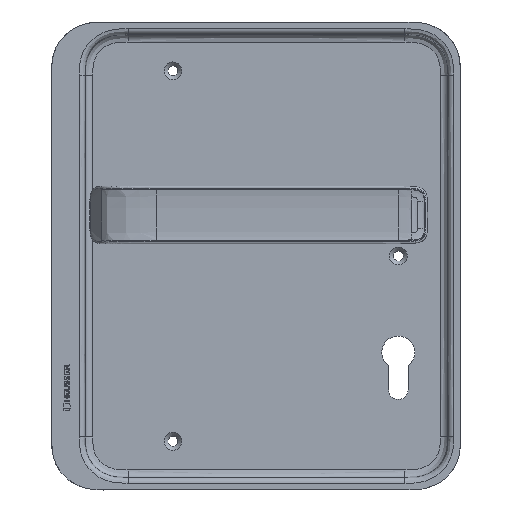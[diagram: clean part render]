
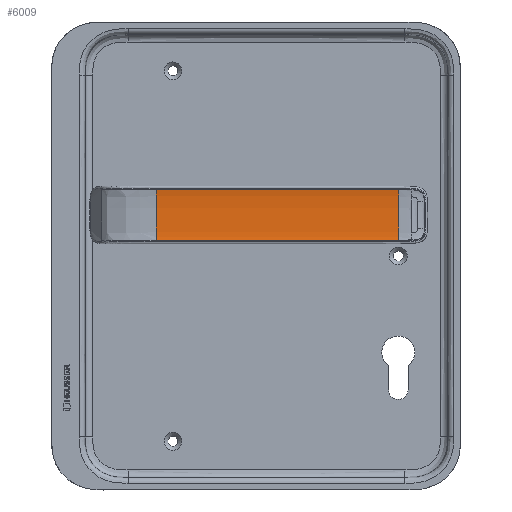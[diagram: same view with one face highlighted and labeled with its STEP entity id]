
A CAD part, top view. The second image highlights one B-rep face of the part: STEP entity #6009.
In plain terms, the highlighted free-form (B-spline) face has degree [1, 5] with [2, 6] control points.
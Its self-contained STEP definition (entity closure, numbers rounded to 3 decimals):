
#267=B_SPLINE_CURVE_WITH_KNOTS('',5,(#14094,#14095,#14096,#14097,#14098,
#14099),.UNSPECIFIED.,.F.,.F.,(6,6),(0.014,0.986),
 .UNSPECIFIED.);
#278=B_SPLINE_CURVE_WITH_KNOTS('',5,(#14281,#14282,#14283,#14284,#14285,
#14286),.UNSPECIFIED.,.F.,.F.,(6,6),(0.014,0.986),
 .UNSPECIFIED.);
#279=B_SPLINE_CURVE_WITH_KNOTS('',5,(#14287,#14288,#14289,#14290,#14291,
#14292,#14293,#14294,#14295,#14296,#14297,#14298,#14299,#14300,#14301),
 .UNSPECIFIED.,.F.,.F.,(6,1,1,1,1,1,1,1,1,1,6),(20.644,20.647,
22.233,23.819,25.404,26.99,28.576,
30.161,31.747,32.54,33.333),
 .UNSPECIFIED.);
#280=B_SPLINE_CURVE_WITH_KNOTS('',3,(#14302,#14303,#14304,#14305,#14306,
#14307,#14308,#14309,#14310,#14311,#14312,#14313,#14314,#14315,#14316,#14317,
#14318,#14319,#14320,#14321,#14322,#14323,#14324,#14325,#14326,#14327,#14328,
#14329),.UNSPECIFIED.,.F.,.F.,(4,3,3,3,3,3,3,3,3,4),(3.015,3.808,
4.601,6.186,7.772,9.358,10.943,
12.529,14.115,15.703),.UNSPECIFIED.);
#458=B_SPLINE_SURFACE_WITH_KNOTS('',1,5,((#14267,#14268,#14269,#14270,#14271,
#14272),(#14273,#14274,#14275,#14276,#14277,#14278)),.UNSPECIFIED.,.F.,
 .F.,.F.,(2,2),(6,6),(0.,1.),(0.,1.),.UNSPECIFIED.);
#1728=FACE_OUTER_BOUND('',#2127,.T.);
#2127=EDGE_LOOP('',(#4991,#4992,#4993,#4994));
#2736=VERTEX_POINT('',#14092);
#2737=VERTEX_POINT('',#14093);
#2748=VERTEX_POINT('',#14279);
#2749=VERTEX_POINT('',#14280);
#3501=EDGE_CURVE('',#2736,#2737,#267,.T.);
#3516=EDGE_CURVE('',#2748,#2749,#278,.T.);
#3517=EDGE_CURVE('',#2736,#2748,#279,.T.);
#3518=EDGE_CURVE('',#2749,#2737,#280,.T.);
#4991=ORIENTED_EDGE('',*,*,#3516,.F.);
#4992=ORIENTED_EDGE('',*,*,#3517,.F.);
#4993=ORIENTED_EDGE('',*,*,#3501,.T.);
#4994=ORIENTED_EDGE('',*,*,#3518,.F.);
#6009=ADVANCED_FACE('',(#1728),#458,.T.);
#14092=CARTESIAN_POINT('',(66.13,16.403,14.44));
#14093=CARTESIAN_POINT('',(66.121,42.914,14.44));
#14094=CARTESIAN_POINT('Ctrl Pts',(66.121,16.403,14.44));
#14095=CARTESIAN_POINT('Ctrl Pts',(66.123,18.551,13.823));
#14096=CARTESIAN_POINT('Ctrl Pts',(66.124,25.43,13.515));
#14097=CARTESIAN_POINT('Ctrl Pts',(66.124,33.886,13.515));
#14098=CARTESIAN_POINT('Ctrl Pts',(66.123,40.766,13.823));
#14099=CARTESIAN_POINT('Ctrl Pts',(66.121,42.914,14.44));
#14267=CARTESIAN_POINT('Ctrl Pts',(-60.73,16.259,14.484));
#14268=CARTESIAN_POINT('Ctrl Pts',(-60.73,18.185,13.832));
#14269=CARTESIAN_POINT('Ctrl Pts',(-60.73,25.262,13.506));
#14270=CARTESIAN_POINT('Ctrl Pts',(-60.73,34.055,13.506));
#14271=CARTESIAN_POINT('Ctrl Pts',(-60.73,41.132,13.832));
#14272=CARTESIAN_POINT('Ctrl Pts',(-60.73,43.059,14.484));
#14273=CARTESIAN_POINT('Ctrl Pts',(66.138,16.259,14.484));
#14274=CARTESIAN_POINT('Ctrl Pts',(66.14,18.185,13.832));
#14275=CARTESIAN_POINT('Ctrl Pts',(66.141,25.262,13.506));
#14276=CARTESIAN_POINT('Ctrl Pts',(66.141,34.055,13.506));
#14277=CARTESIAN_POINT('Ctrl Pts',(66.14,41.132,13.832));
#14278=CARTESIAN_POINT('Ctrl Pts',(66.138,43.059,14.484));
#14279=CARTESIAN_POINT('',(-60.73,16.403,14.439));
#14280=CARTESIAN_POINT('',(-60.73,42.915,14.439));
#14281=CARTESIAN_POINT('Ctrl Pts',(-60.73,16.403,14.439));
#14282=CARTESIAN_POINT('Ctrl Pts',(-60.73,18.551,13.823));
#14283=CARTESIAN_POINT('Ctrl Pts',(-60.73,25.43,13.515));
#14284=CARTESIAN_POINT('Ctrl Pts',(-60.73,33.887,13.515));
#14285=CARTESIAN_POINT('Ctrl Pts',(-60.73,40.766,13.823));
#14286=CARTESIAN_POINT('Ctrl Pts',(-60.73,42.915,14.439));
#14287=CARTESIAN_POINT('Ctrl Pts',(66.13,16.403,14.44));
#14288=CARTESIAN_POINT('Ctrl Pts',(66.122,16.403,14.44));
#14289=CARTESIAN_POINT('Ctrl Pts',(62.977,16.402,14.44));
#14290=CARTESIAN_POINT('Ctrl Pts',(56.641,16.403,14.44));
#14291=CARTESIAN_POINT('Ctrl Pts',(47.087,16.402,14.44));
#14292=CARTESIAN_POINT('Ctrl Pts',(34.408,16.403,14.44));
#14293=CARTESIAN_POINT('Ctrl Pts',(18.558,16.402,14.439));
#14294=CARTESIAN_POINT('Ctrl Pts',(2.691,16.403,14.44));
#14295=CARTESIAN_POINT('Ctrl Pts',(-13.162,16.402,14.439));
#14296=CARTESIAN_POINT('Ctrl Pts',(-27.429,16.403,14.44));
#14297=CARTESIAN_POINT('Ctrl Pts',(-40.118,16.402,14.439));
#14298=CARTESIAN_POINT('Ctrl Pts',(-49.632,16.403,14.44));
#14299=CARTESIAN_POINT('Ctrl Pts',(-55.973,16.403,14.439));
#14300=CARTESIAN_POINT('Ctrl Pts',(-59.144,16.403,14.44));
#14301=CARTESIAN_POINT('Ctrl Pts',(-60.73,16.403,14.439));
#14302=CARTESIAN_POINT('Ctrl Pts',(-60.73,42.915,14.439));
#14303=CARTESIAN_POINT('Ctrl Pts',(-58.087,42.915,14.439));
#14304=CARTESIAN_POINT('Ctrl Pts',(-55.444,42.915,14.439));
#14305=CARTESIAN_POINT('Ctrl Pts',(-52.801,42.915,14.439));
#14306=CARTESIAN_POINT('Ctrl Pts',(-50.159,42.915,14.439));
#14307=CARTESIAN_POINT('Ctrl Pts',(-47.517,42.915,14.439));
#14308=CARTESIAN_POINT('Ctrl Pts',(-44.874,42.915,14.439));
#14309=CARTESIAN_POINT('Ctrl Pts',(-39.589,42.915,14.439));
#14310=CARTESIAN_POINT('Ctrl Pts',(-34.302,42.915,14.439));
#14311=CARTESIAN_POINT('Ctrl Pts',(-29.016,42.915,14.439));
#14312=CARTESIAN_POINT('Ctrl Pts',(-23.73,42.915,14.439));
#14313=CARTESIAN_POINT('Ctrl Pts',(-18.446,42.915,14.439));
#14314=CARTESIAN_POINT('Ctrl Pts',(-13.161,42.915,14.439));
#14315=CARTESIAN_POINT('Ctrl Pts',(-7.877,42.915,14.439));
#14316=CARTESIAN_POINT('Ctrl Pts',(-2.592,42.915,14.439));
#14317=CARTESIAN_POINT('Ctrl Pts',(2.694,42.915,14.439));
#14318=CARTESIAN_POINT('Ctrl Pts',(7.981,42.915,14.439));
#14319=CARTESIAN_POINT('Ctrl Pts',(13.268,42.915,14.44));
#14320=CARTESIAN_POINT('Ctrl Pts',(18.554,42.915,14.44));
#14321=CARTESIAN_POINT('Ctrl Pts',(23.84,42.915,14.44));
#14322=CARTESIAN_POINT('Ctrl Pts',(29.123,42.915,14.44));
#14323=CARTESIAN_POINT('Ctrl Pts',(34.406,42.915,14.44));
#14324=CARTESIAN_POINT('Ctrl Pts',(39.689,42.915,14.44));
#14325=CARTESIAN_POINT('Ctrl Pts',(44.975,42.915,14.44));
#14326=CARTESIAN_POINT('Ctrl Pts',(50.266,42.915,14.44));
#14327=CARTESIAN_POINT('Ctrl Pts',(55.568,42.915,14.44));
#14328=CARTESIAN_POINT('Ctrl Pts',(60.882,42.916,14.44));
#14329=CARTESIAN_POINT('Ctrl Pts',(66.121,42.914,14.44));
